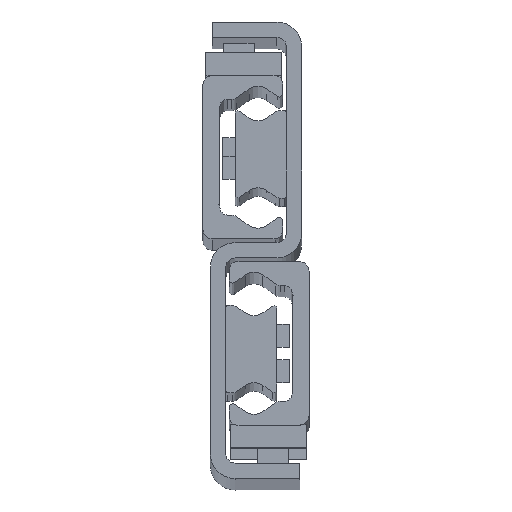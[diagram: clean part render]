
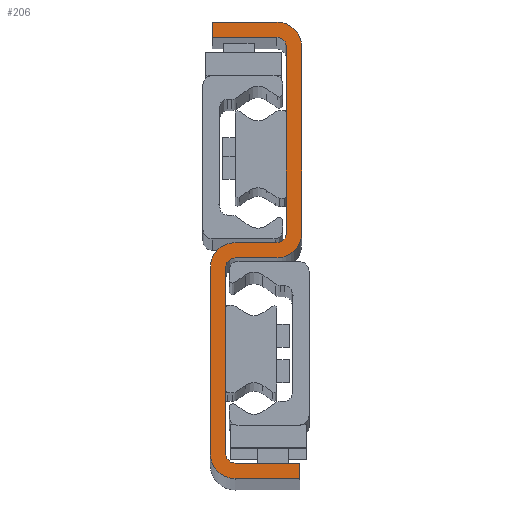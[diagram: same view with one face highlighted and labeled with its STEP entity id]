
A CAD part, top view. The second image highlights one B-rep face of the part: STEP entity #206.
In plain terms, the highlighted planar face has unit normal (0, 0, 1).
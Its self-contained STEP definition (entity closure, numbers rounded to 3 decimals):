
#206=ADVANCED_FACE('',(#753),#754,.T.);
#753=FACE_OUTER_BOUND('',#1655,.T.);
#754=PLANE('',#1656);
#1655=EDGE_LOOP('',(#3277,#3278,#3279,#3280,#3281,#3282,#3283,#3284,#3285,#3286,#3287,#3288,#3289,#3290,#3291,#3292,#3293,#3294,#3295,#3296));
#1656=AXIS2_PLACEMENT_3D('',#3297,#3298,#3299);
#3277=ORIENTED_EDGE('',*,*,#5793,.F.);
#3278=ORIENTED_EDGE('',*,*,#5851,.F.);
#3279=ORIENTED_EDGE('',*,*,#5848,.F.);
#3280=ORIENTED_EDGE('',*,*,#5845,.F.);
#3281=ORIENTED_EDGE('',*,*,#5842,.F.);
#3282=ORIENTED_EDGE('',*,*,#5839,.F.);
#3283=ORIENTED_EDGE('',*,*,#5836,.F.);
#3284=ORIENTED_EDGE('',*,*,#5833,.F.);
#3285=ORIENTED_EDGE('',*,*,#5830,.F.);
#3286=ORIENTED_EDGE('',*,*,#5827,.F.);
#3287=ORIENTED_EDGE('',*,*,#5824,.F.);
#3288=ORIENTED_EDGE('',*,*,#5821,.F.);
#3289=ORIENTED_EDGE('',*,*,#5818,.F.);
#3290=ORIENTED_EDGE('',*,*,#5815,.F.);
#3291=ORIENTED_EDGE('',*,*,#5812,.F.);
#3292=ORIENTED_EDGE('',*,*,#5809,.F.);
#3293=ORIENTED_EDGE('',*,*,#5806,.F.);
#3294=ORIENTED_EDGE('',*,*,#5803,.F.);
#3295=ORIENTED_EDGE('',*,*,#5800,.F.);
#3296=ORIENTED_EDGE('',*,*,#5797,.F.);
#3297=CARTESIAN_POINT('',(-14.,26.,2608.0));
#3298=DIRECTION('',(0.0,0.0,1.0));
#3299=DIRECTION('',(1.0,0.0,0.0));
#5793=EDGE_CURVE('',#7011,#7012,#7013,.T.);
#5797=EDGE_CURVE('',#7012,#7019,#7020,.T.);
#5800=EDGE_CURVE('',#7019,#7024,#7025,.T.);
#5803=EDGE_CURVE('',#7024,#7029,#7030,.T.);
#5806=EDGE_CURVE('',#7029,#7034,#7035,.T.);
#5809=EDGE_CURVE('',#7034,#7039,#7040,.T.);
#5812=EDGE_CURVE('',#7039,#7044,#7045,.T.);
#5815=EDGE_CURVE('',#7044,#7049,#7050,.T.);
#5818=EDGE_CURVE('',#7049,#7054,#7055,.T.);
#5821=EDGE_CURVE('',#7054,#7059,#7060,.T.);
#5824=EDGE_CURVE('',#7059,#7064,#7065,.T.);
#5827=EDGE_CURVE('',#7064,#7069,#7070,.T.);
#5830=EDGE_CURVE('',#7069,#7074,#7075,.T.);
#5833=EDGE_CURVE('',#7074,#7079,#7080,.T.);
#5836=EDGE_CURVE('',#7079,#7084,#7085,.T.);
#5839=EDGE_CURVE('',#7084,#7089,#7090,.T.);
#5842=EDGE_CURVE('',#7089,#7094,#7095,.T.);
#5845=EDGE_CURVE('',#7094,#7099,#7100,.T.);
#5848=EDGE_CURVE('',#7099,#7104,#7105,.T.);
#5851=EDGE_CURVE('',#7104,#7011,#7109,.T.);
#7011=VERTEX_POINT('',#8901);
#7012=VERTEX_POINT('',#8902);
#7013=LINE('',#8903,#8904);
#7019=VERTEX_POINT('',#8913);
#7020=CIRCLE('',#8914,2.5);
#7024=VERTEX_POINT('',#8919);
#7025=LINE('',#8920,#8921);
#7029=VERTEX_POINT('',#8927);
#7030=CIRCLE('',#8928,2.5);
#7034=VERTEX_POINT('',#8933);
#7035=LINE('',#8934,#8935);
#7039=VERTEX_POINT('',#8941);
#7040=LINE('',#8942,#8943);
#7044=VERTEX_POINT('',#8949);
#7045=LINE('',#8950,#8951);
#7049=VERTEX_POINT('',#8957);
#7050=CIRCLE('',#8958,6.5);
#7054=VERTEX_POINT('',#8963);
#7055=LINE('',#8964,#8965);
#7059=VERTEX_POINT('',#8971);
#7060=CIRCLE('',#8972,6.5);
#7064=VERTEX_POINT('',#8977);
#7065=LINE('',#8978,#8979);
#7069=VERTEX_POINT('',#8985);
#7070=CIRCLE('',#8986,2.5);
#7074=VERTEX_POINT('',#8991);
#7075=LINE('',#8992,#8993);
#7079=VERTEX_POINT('',#8999);
#7080=CIRCLE('',#9000,2.5);
#7084=VERTEX_POINT('',#9005);
#7085=LINE('',#9006,#9007);
#7089=VERTEX_POINT('',#9013);
#7090=LINE('',#9014,#9015);
#7094=VERTEX_POINT('',#9021);
#7095=LINE('',#9022,#9023);
#7099=VERTEX_POINT('',#9029);
#7100=CIRCLE('',#9030,6.5);
#7104=VERTEX_POINT('',#9035);
#7105=LINE('',#9036,#9037);
#7109=CIRCLE('',#9043,6.5);
#8901=CARTESIAN_POINT('',(-8.5,24.,2608.0));
#8902=CARTESIAN_POINT('',(-19.5,24.,2608.0));
#8903=CARTESIAN_POINT('',(-8.5,24.,2608.0));
#8904=VECTOR('',#10977,1.0);
#8913=CARTESIAN_POINT('',(-22.,21.5,2608.0));
#8914=AXIS2_PLACEMENT_3D('',#10981,#10982,#10983);
#8919=CARTESIAN_POINT('',(-22.,-27.5,2608.0));
#8920=CARTESIAN_POINT('',(-22.,-27.5,2608.0));
#8921=VECTOR('',#10988,1.0);
#8927=CARTESIAN_POINT('',(-19.5,-30.,2608.0));
#8928=AXIS2_PLACEMENT_3D('',#10991,#10992,#10993);
#8933=CARTESIAN_POINT('',(-2.5,-30.,2608.0));
#8934=CARTESIAN_POINT('',(-19.5,-30.,2608.0));
#8935=VECTOR('',#10998,1.0);
#8941=CARTESIAN_POINT('',(-2.5,-34.,2608.0));
#8942=CARTESIAN_POINT('',(-2.5,-34.,2608.0));
#8943=VECTOR('',#11001,1.0);
#8949=CARTESIAN_POINT('',(-19.5,-34.,2608.0));
#8950=CARTESIAN_POINT('',(-19.5,-34.,2608.0));
#8951=VECTOR('',#11004,1.0);
#8957=CARTESIAN_POINT('',(-26.,-27.5,2608.0));
#8958=AXIS2_PLACEMENT_3D('',#11007,#11008,#11009);
#8963=CARTESIAN_POINT('',(-26.,21.5,2608.0));
#8964=CARTESIAN_POINT('',(-26.,21.5,2608.0));
#8965=VECTOR('',#11014,1.0);
#8971=CARTESIAN_POINT('',(-19.5,28.,2608.0));
#8972=AXIS2_PLACEMENT_3D('',#11017,#11018,#11019);
#8977=CARTESIAN_POINT('',(-8.5,28.,2608.0));
#8978=CARTESIAN_POINT('',(-8.5,28.,2608.0));
#8979=VECTOR('',#11024,1.0);
#8985=CARTESIAN_POINT('',(-6.,30.5,2608.0));
#8986=AXIS2_PLACEMENT_3D('',#11027,#11028,#11029);
#8991=CARTESIAN_POINT('',(-6.,79.5,2608.0));
#8992=CARTESIAN_POINT('',(-6.,79.5,2608.0));
#8993=VECTOR('',#11034,1.0);
#8999=CARTESIAN_POINT('',(-8.5,82.,2608.0));
#9000=AXIS2_PLACEMENT_3D('',#11037,#11038,#11039);
#9005=CARTESIAN_POINT('',(-25.5,82.,2608.0));
#9006=CARTESIAN_POINT('',(-25.5,82.,2608.0));
#9007=VECTOR('',#11044,1.0);
#9013=CARTESIAN_POINT('',(-25.5,86.,2608.0));
#9014=CARTESIAN_POINT('',(-25.5,86.,2608.0));
#9015=VECTOR('',#11047,1.0);
#9021=CARTESIAN_POINT('',(-8.5,86.,2608.0));
#9022=CARTESIAN_POINT('',(-25.5,86.,2608.0));
#9023=VECTOR('',#11050,1.0);
#9029=CARTESIAN_POINT('',(-2.,79.5,2608.0));
#9030=AXIS2_PLACEMENT_3D('',#11053,#11054,#11055);
#9035=CARTESIAN_POINT('',(-2.,30.5,2608.0));
#9036=CARTESIAN_POINT('',(-2.,79.5,2608.0));
#9037=VECTOR('',#11060,1.0);
#9043=AXIS2_PLACEMENT_3D('',#11063,#11064,#11065);
#10977=DIRECTION('',(-1.0,0.,0.0));
#10981=CARTESIAN_POINT('',(-19.5,21.5,2608.0));
#10982=DIRECTION('',(0.0,0.0,1.0));
#10983=DIRECTION('',(1.0,0.0,0.0));
#10988=DIRECTION('',(-0.0,-1.0,-0.0));
#10991=CARTESIAN_POINT('',(-19.5,-27.5,2608.0));
#10992=DIRECTION('',(0.0,0.0,1.0));
#10993=DIRECTION('',(1.0,0.0,0.0));
#10998=DIRECTION('',(1.,0.,0.0));
#11001=DIRECTION('',(-0.0,-1.0,-0.0));
#11004=DIRECTION('',(-1.,0.,-0.0));
#11007=CARTESIAN_POINT('',(-19.5,-27.5,2608.0));
#11008=DIRECTION('',(0.0,0.0,-1.0));
#11009=DIRECTION('',(1.0,0.0,0.0));
#11014=DIRECTION('',(0.0,1.0,0.0));
#11017=CARTESIAN_POINT('',(-19.5,21.5,2608.0));
#11018=DIRECTION('',(0.0,0.0,-1.0));
#11019=DIRECTION('',(1.0,0.0,0.0));
#11024=DIRECTION('',(1.0,0.,0.0));
#11027=CARTESIAN_POINT('',(-8.5,30.5,2608.0));
#11028=DIRECTION('',(0.0,0.0,1.0));
#11029=DIRECTION('',(1.0,0.0,0.0));
#11034=DIRECTION('',(0.0,1.0,0.0));
#11037=CARTESIAN_POINT('',(-8.5,79.5,2608.0));
#11038=DIRECTION('',(0.0,0.0,1.0));
#11039=DIRECTION('',(1.0,0.0,0.0));
#11044=DIRECTION('',(-1.,0.,0.0));
#11047=DIRECTION('',(0.0,1.0,0.0));
#11050=DIRECTION('',(1.,0.,0.0));
#11053=CARTESIAN_POINT('',(-8.5,79.5,2608.0));
#11054=DIRECTION('',(0.0,0.0,-1.0));
#11055=DIRECTION('',(1.0,0.0,0.0));
#11060=DIRECTION('',(0.,-1.0,0.0));
#11063=CARTESIAN_POINT('',(-8.5,30.5,2608.0));
#11064=DIRECTION('',(0.0,0.0,-1.0));
#11065=DIRECTION('',(1.0,0.0,0.0));
